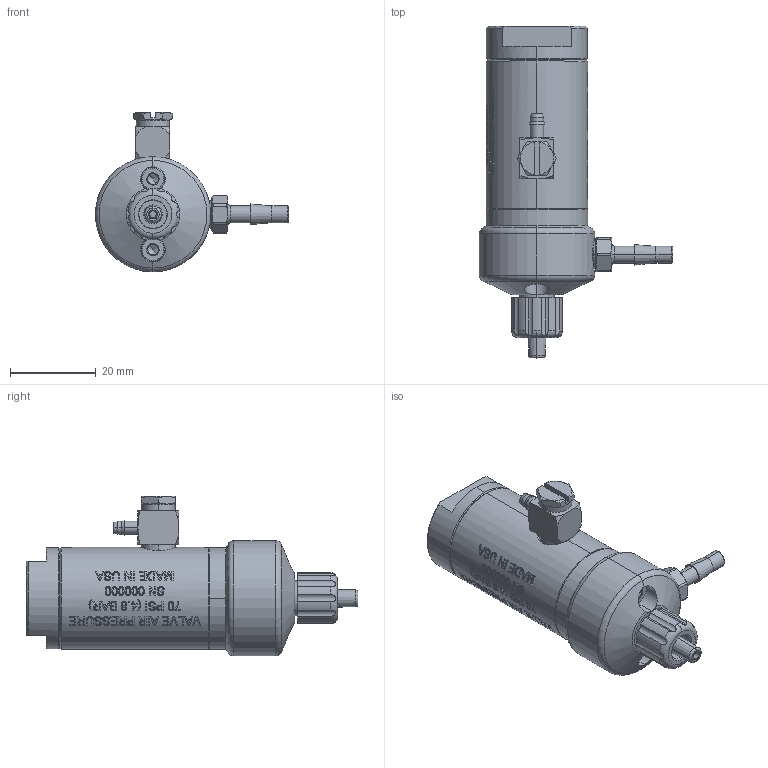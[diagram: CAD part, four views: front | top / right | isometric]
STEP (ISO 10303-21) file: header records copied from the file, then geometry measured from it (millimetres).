
FILE_DESCRIPTION (( 'STEP AP214' ), '1' );
FILE_NAME ('NORDSONEFD-7021514 DIAPHRAGM VALVE - 316 SS.STEP', '2019-04-05T07:54:51', ( '' ), ( '' ), 'SwSTEP 2.0', 'SolidWorks 2019', '' );
FILE_SCHEMA (( 'AUTOMOTIVE_DESIGN' ));
Length unit declared in the file: inch
Products named in the file (1): NORDSONEFD-7021514 DIAPHRAGM VALVE - 316 SS
Bounding box: 45.16 x 77.54 x 37.34 mm (x, y, z)
Volume: 30066.9 mm3; surface area: 8354.9 mm2
Topology: 1 solids, 1 shells, 1019 faces, 2640 edges, 1720 vertices
Faces by surface type: plane 434, bspline 324, cylinder 166, cone 75, torus 20
Entity records: 45225 total; most frequent: CARTESIAN_POINT 21966, ORIENTED_EDGE 5264, DIRECTION 3652, EDGE_CURVE 2632, VERTEX_POINT 1720, VECTOR 1252, LINE 1252, AXIS2_PLACEMENT_3D 1200
